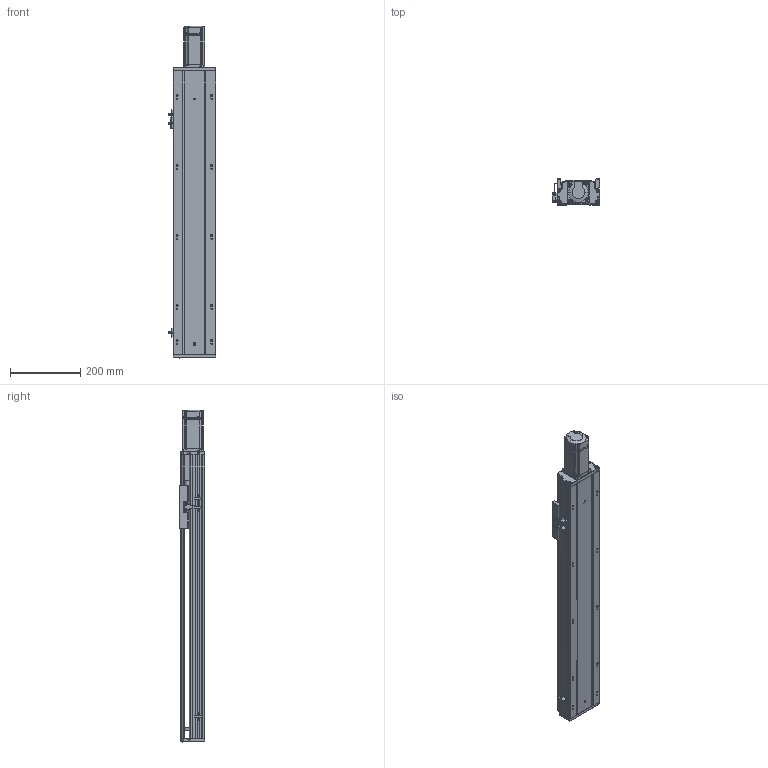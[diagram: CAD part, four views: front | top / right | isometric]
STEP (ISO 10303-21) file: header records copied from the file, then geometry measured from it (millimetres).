
FILE_DESCRIPTION (( 'STEP AP203' ), '1' );
FILE_NAME ('RY120Q-L1610-500-MK.SLDASM_0550.step', '2021-05-19T01:44:52', ( '盈信电脑' ), ( '东莞市道滘镇水果街19号' ), 'SwSTEP 2.0', 'SolidWorks 2016', '' );
FILE_SCHEMA (( 'CONFIG_CONTROL_DESIGN' ));
Length unit declared in the file: millimetre
Products named in the file (14): 滅袉蝶18-10; RY120綴裔啣; RY120铝滑块16丝杆（FK12）; 覜茼ん672; RY120-500-MK倰第奻裔啣_0550; 滅袉蝶18-15; RY120外置感应片(140共用）; RY120萇儂釱FK12; RY120-500-MK倰第菁釱_0550; 15; RY120Q-L1610-500-MK.SLDASM_0550; 鞠褒坶踡蹟譫BK12 ; RY120QGB-1.8; 侂狟400W侜督萇儂
Assembly tree (16 placements, depth 3):
  RY120Q-L1610-500-MK.SLDASM_0550
    RY120-500-MK倰第菁釱_0550
    RY120-500-MK倰第奻裔啣_0550
    侂狟400W侜督萇儂
      15
    鞠褒坶踡蹟譫BK12 
    RY120綴裔啣
    覜茼ん672  x3
    滅袉蝶18-10
    滅袉蝶18-15  x2
    RY120外置感应片(140共用）
    RY120QGB-1.8
    RY120铝滑块16丝杆（FK12）
    RY120萇儂釱FK12
Bounding box: 135.7 x 74 x 948.5 mm (x, y, z)
Volume: 2640590.5 mm3; surface area: 901318.2 mm2
Topology: 16 solids, 16 shells, 2174 faces, 5959 edges, 3804 vertices
Faces by surface type: plane 1009, cylinder 833, cone 231, bspline 101
Entity records: 71219 total; most frequent: CARTESIAN_POINT 19779, ORIENTED_EDGE 10662, DIRECTION 10075, EDGE_CURVE 5331, VERTEX_POINT 3472, AXIS2_PLACEMENT_3D 3464, VECTOR 3147, LINE 3147
